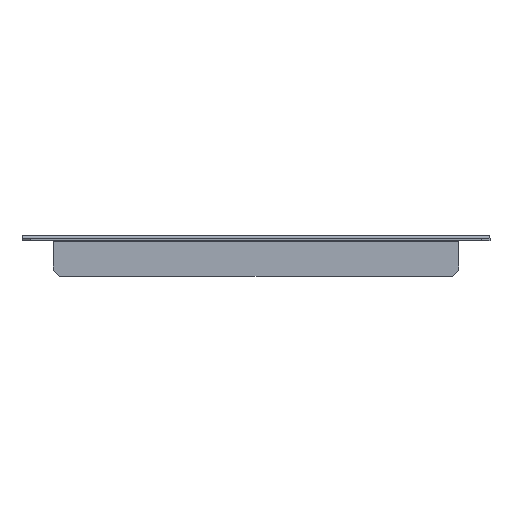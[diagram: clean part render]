
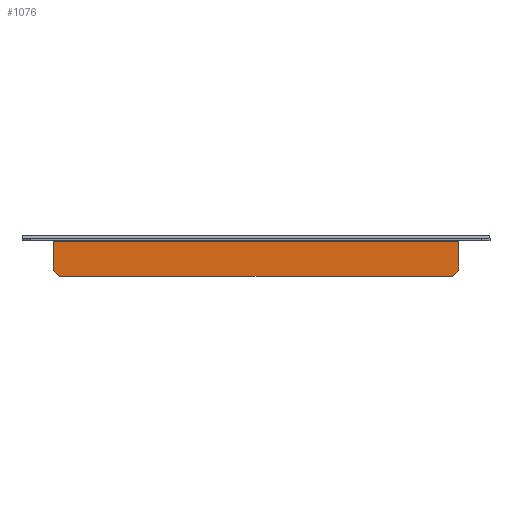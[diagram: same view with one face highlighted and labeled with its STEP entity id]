
A CAD part, top view. The second image highlights one B-rep face of the part: STEP entity #1076.
In plain terms, the highlighted planar face has unit normal (0, 0, 1).
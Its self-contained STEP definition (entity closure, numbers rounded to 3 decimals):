
#5 = FACE_OUTER_BOUND ( 'NONE', #1168, .T. ) ;
#34 = LINE ( 'NONE', #1262, #1532 ) ;
#74 = CARTESIAN_POINT ( 'NONE',  ( -95.45, -14.8, -1.2 ) ) ;
#91 = PLANE ( 'NONE',  #777 ) ;
#106 = DIRECTION ( 'NONE',  ( 0., 0., -1. ) ) ;
#155 = CARTESIAN_POINT ( 'NONE',  ( -95.45, -1.2, -1.2 ) ) ;
#194 = ORIENTED_EDGE ( 'NONE', *, *, #310, .F. ) ;
#195 = EDGE_CURVE ( 'NONE', #470, #1305, #1060, .T. ) ;
#249 = CARTESIAN_POINT ( 'NONE',  ( -95.45, -1., -1.2 ) ) ;
#310 = EDGE_CURVE ( 'NONE', #699, #1521, #34, .T. ) ;
#326 = DIRECTION ( 'NONE',  ( 0.707, -0.707, 0. ) ) ;
#396 = CARTESIAN_POINT ( 'NONE',  ( -95.45, -14.8, -1.2 ) ) ;
#427 = ORIENTED_EDGE ( 'NONE', *, *, #195, .F. ) ;
#470 = VERTEX_POINT ( 'NONE', #933 ) ;
#505 = DIRECTION ( 'NONE',  ( -1., 0., 0. ) ) ;
#513 = CARTESIAN_POINT ( 'NONE',  ( 92.45, -17.8, -1.2 ) ) ;
#601 = LINE ( 'NONE', #513, #1274 ) ;
#680 = EDGE_CURVE ( 'NONE', #748, #1521, #1452, .T. ) ;
#699 = VERTEX_POINT ( 'NONE', #1102 ) ;
#739 = LINE ( 'NONE', #895, #877 ) ;
#744 = DIRECTION ( 'NONE',  ( 1., 0., 0. ) ) ;
#748 = VERTEX_POINT ( 'NONE', #396 ) ;
#770 = VERTEX_POINT ( 'NONE', #155 ) ;
#776 = EDGE_CURVE ( 'NONE', #699, #1305, #601, .T. ) ;
#777 = AXIS2_PLACEMENT_3D ( 'NONE', #1471, #106, #975 ) ;
#862 = VECTOR ( 'NONE', #326, 1000. ) ;
#877 = VECTOR ( 'NONE', #744, 1000. ) ;
#891 = DIRECTION ( 'NONE',  ( 0.707, 0.707, 0. ) ) ;
#895 = CARTESIAN_POINT ( 'NONE',  ( -95.45, -1.2, -1.2 ) ) ;
#914 = VECTOR ( 'NONE', #1144, 1000. ) ;
#933 = CARTESIAN_POINT ( 'NONE',  ( 95.45, -1.2, -1.2 ) ) ;
#975 = DIRECTION ( 'NONE',  ( 0., 1., 0. ) ) ;
#982 = ORIENTED_EDGE ( 'NONE', *, *, #776, .T. ) ;
#1005 = CARTESIAN_POINT ( 'NONE',  ( 95.45, -14.8, -1.2 ) ) ;
#1060 = LINE ( 'NONE', #1098, #1342 ) ;
#1076 = ADVANCED_FACE ( 'NONE', ( #5 ), #91, .F. ) ;
#1098 = CARTESIAN_POINT ( 'NONE',  ( 95.45, -17.8, -1.2 ) ) ;
#1102 = CARTESIAN_POINT ( 'NONE',  ( 92.45, -17.8, -1.2 ) ) ;
#1133 = ORIENTED_EDGE ( 'NONE', *, *, #680, .T. ) ;
#1144 = DIRECTION ( 'NONE',  ( 0., 1., 0. ) ) ;
#1168 = EDGE_LOOP ( 'NONE', ( #1364, #1133, #194, #982, #427, #1351 ) ) ;
#1245 = EDGE_CURVE ( 'NONE', #748, #770, #1505, .T. ) ;
#1262 = CARTESIAN_POINT ( 'NONE',  ( -95.45, -17.8, -1.2 ) ) ;
#1273 = EDGE_CURVE ( 'NONE', #770, #470, #739, .T. ) ;
#1274 = VECTOR ( 'NONE', #891, 1000. ) ;
#1305 = VERTEX_POINT ( 'NONE', #1005 ) ;
#1342 = VECTOR ( 'NONE', #1605, 1000. ) ;
#1351 = ORIENTED_EDGE ( 'NONE', *, *, #1273, .F. ) ;
#1364 = ORIENTED_EDGE ( 'NONE', *, *, #1245, .F. ) ;
#1434 = CARTESIAN_POINT ( 'NONE',  ( -92.45, -17.8, -1.2 ) ) ;
#1452 = LINE ( 'NONE', #74, #862 ) ;
#1471 = CARTESIAN_POINT ( 'NONE',  ( 0., 0., -1.2 ) ) ;
#1505 = LINE ( 'NONE', #249, #914 ) ;
#1521 = VERTEX_POINT ( 'NONE', #1434 ) ;
#1532 = VECTOR ( 'NONE', #505, 1000. ) ;
#1605 = DIRECTION ( 'NONE',  ( 0., -1., 0. ) ) ;
